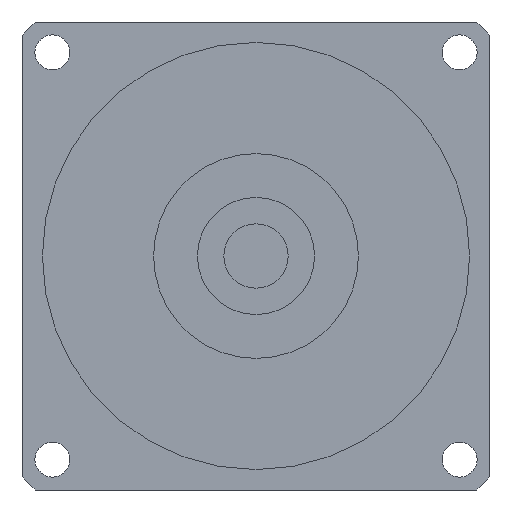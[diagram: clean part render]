
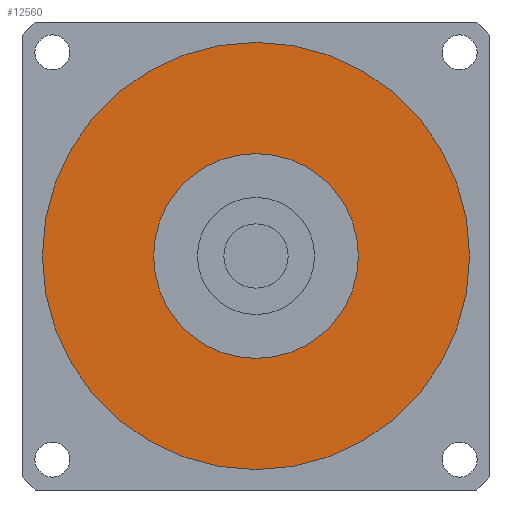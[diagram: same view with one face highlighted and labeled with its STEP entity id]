
A CAD part, left-side view. The second image highlights one B-rep face of the part: STEP entity #12560.
In plain terms, the highlighted planar face has unit normal (-1, 0, 0) as drawn and (0, 0, -1) by its records, which use the part's own axes.
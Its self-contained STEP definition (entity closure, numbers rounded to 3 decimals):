
#11950=CARTESIAN_POINT('',(0.,0.,
-88.5));
#11960=DIRECTION('',(0.,0.,1.));
#11970=DIRECTION('',(0.,-1.,0.));
#11980=AXIS2_PLACEMENT_3D('',#11950,#11960,#11970);
#11990=CIRCLE('',#11980,17.5);
#12000=CARTESIAN_POINT('',(0.,-17.5,-88.5));
#12010=VERTEX_POINT('',#12000);
#12020=CARTESIAN_POINT('',(17.5,0.,-88.5));
#12030=VERTEX_POINT('',#12020);
#12040=EDGE_CURVE('',#12010,#12030,#11990,.T.);
#12170=CARTESIAN_POINT('',(-17.5,0.,-88.5));
#12180=VERTEX_POINT('',#12170);
#12210=EDGE_CURVE('',#12180,#12010,#11990,.T.);
#12260=CARTESIAN_POINT('',(0.,0.,
-88.5));
#12270=DIRECTION('',(0.,0.,1.));
#12280=DIRECTION('',(-1.,0.,0.));
#12290=AXIS2_PLACEMENT_3D('',#12260,#12270,#12280);
#12300=PLANE('',#12290);
#12310=CARTESIAN_POINT('',(0.,0.,
-88.5));
#12320=DIRECTION('',(0.,0.,1.));
#12330=DIRECTION('',(0.,-1.,0.));
#12340=AXIS2_PLACEMENT_3D('',#12310,#12320,#12330);
#12350=CIRCLE('',#12340,36.51);
#12360=CARTESIAN_POINT('',(0.,-36.51,-88.5));
#12370=VERTEX_POINT('',#12360);
#12380=CARTESIAN_POINT('',(36.51,0.,-88.5));
#12390=VERTEX_POINT('',#12380);
#12400=EDGE_CURVE('',#12370,#12390,#12350,.T.);
#12410=ORIENTED_EDGE('',*,*,#12400,.F.);
#12420=CARTESIAN_POINT('',(-36.51,0.,-88.5));
#12430=VERTEX_POINT('',#12420);
#12440=EDGE_CURVE('',#12390,#12430,#12350,.T.);
#12450=ORIENTED_EDGE('',*,*,#12440,.F.);
#12460=EDGE_CURVE('',#12430,#12370,#12350,.T.);
#12470=ORIENTED_EDGE('',*,*,#12460,.F.);
#12480=EDGE_LOOP('',(#12470,#12450,#12410));
#12490=FACE_OUTER_BOUND('',#12480,.T.);
#12500=EDGE_CURVE('',#12030,#12180,#11990,.T.);
#12510=ORIENTED_EDGE('',*,*,#12500,.T.);
#12520=ORIENTED_EDGE('',*,*,#12040,.T.);
#12530=ORIENTED_EDGE('',*,*,#12210,.T.);
#12540=EDGE_LOOP('',(#12530,#12520,#12510));
#12550=FACE_BOUND('',#12540,.T.);
#12560=ADVANCED_FACE('',(#12490,#12550),#12300,.F.);
